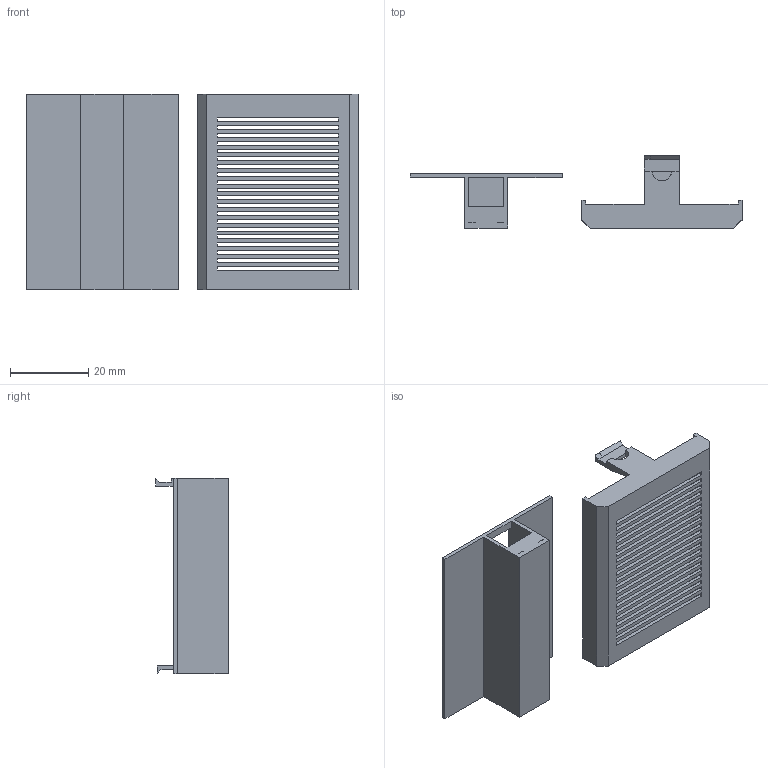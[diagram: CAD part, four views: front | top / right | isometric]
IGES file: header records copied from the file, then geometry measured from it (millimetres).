
Global section: file name: Sensorgehäuse v13,; native system: unknown; preprocessor: unknown; author: valkicom; organization: unknown; date: 20190207.074620; units: millimetre
Bounding box: 85 x 18.57 x 50 mm (x, y, z)
Volume: 6186.2 mm3; surface area: 13768.5 mm2
Topology: 2 solids, 2 shells, 163 faces, 481 edges, 318 vertices
Faces by surface type: bspline 163
